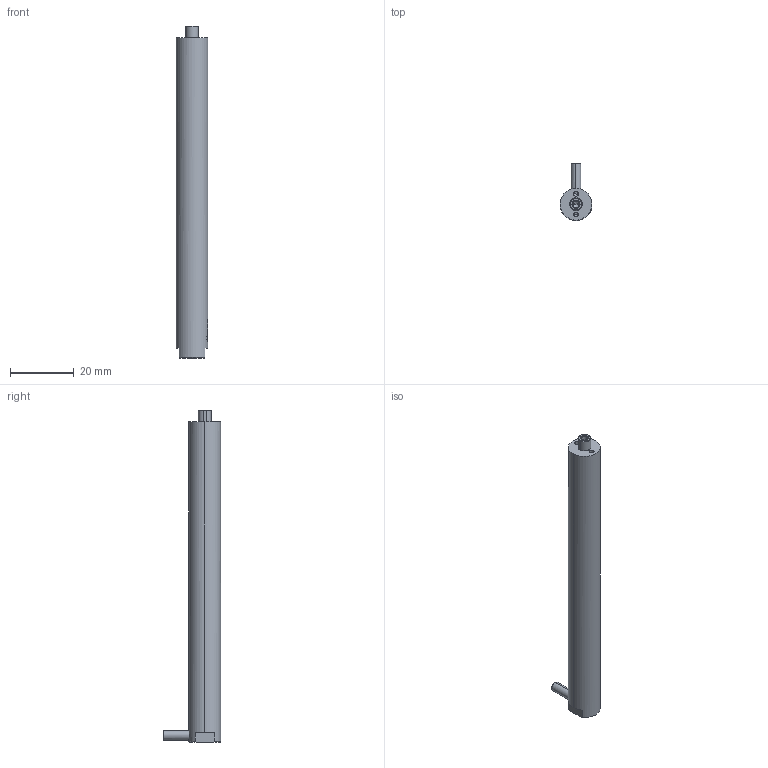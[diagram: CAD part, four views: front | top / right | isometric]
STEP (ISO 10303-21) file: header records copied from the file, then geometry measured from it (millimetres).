
FILE_DESCRIPTION (( 'STEP AP203' ), '1' );
FILE_NAME ('100VS10囀蹟恇.STEP', '2024-12-10T06:33:15', ( 'daohangxitong.com' ), ( 'daohangxitong.com' ), 'SwSTEP 2.0', 'SolidWorks 2016', '' );
FILE_SCHEMA (( 'CONFIG_CONTROL_DESIGN' ));
Length unit declared in the file: millimetre
Products named in the file (1): 100VS10囀蹟恇
Bounding box: 10 x 18 x 104.3 mm (x, y, z)
Volume: 7923.5 mm3; surface area: 3532.1 mm2
Topology: 1 solids, 1 shells, 913 faces, 2615 edges, 1735 vertices
Faces by surface type: bspline 800, cylinder 52, plane 45, cone 16
Entity records: 49729 total; most frequent: CARTESIAN_POINT 33001, ORIENTED_EDGE 5214, EDGE_CURVE 2607, B_SPLINE_CURVE_WITH_KNOTS 2451, VERTEX_POINT 1735, EDGE_LOOP 952, ADVANCED_FACE 913, FACE_OUTER_BOUND 913
